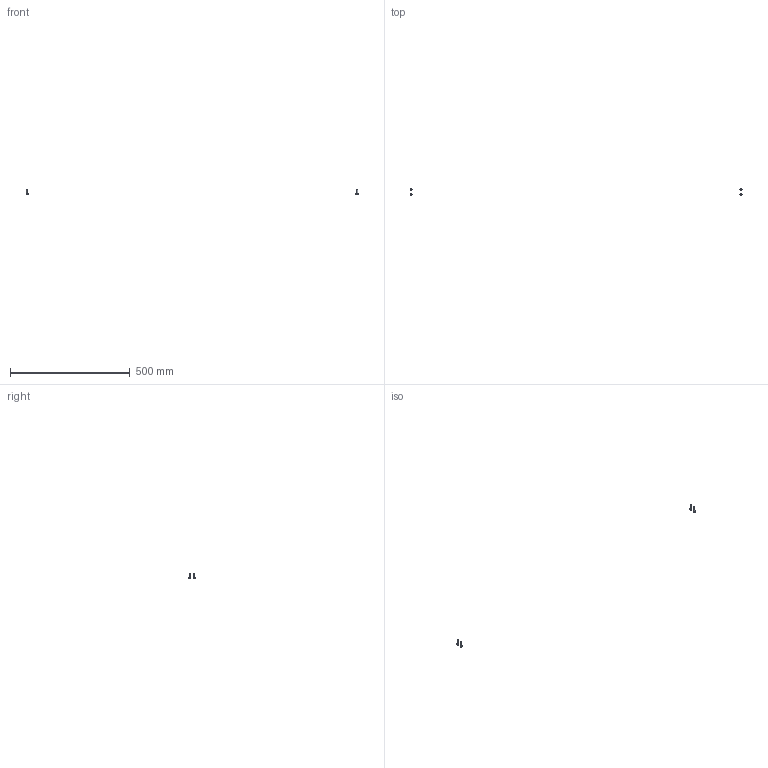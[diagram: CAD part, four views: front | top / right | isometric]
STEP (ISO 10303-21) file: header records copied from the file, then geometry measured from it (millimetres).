
FILE_DESCRIPTION(/* description */ (''),/* implementation_level */ '2;1');
FILE_NAME(/* name */ 'Y-CART~3',/* time_stamp */ '2014-02-14T19:37:15+01:00',/* author */ (''),/* organization */ (''),/* preprocessor_version */ 'ST-DEVELOPER v14',/* originating_system */ '',/* authorisation */ '');
FILE_SCHEMA (('AUTOMOTIVE_DESIGN'));
Length unit declared in the file: millimetre
Products named in the file (2): Document; screw DIN912-like, M5x20
Assembly tree (2 placements, depth 2):
  Document
    screw DIN912-like, M5x20  x2
Bounding box: 1386.46 x 28.5 x 25 mm (x, y, z)
Volume: 2546.5 mm3; surface area: 2334.9 mm2
Topology: 4 solids, 4 shells, 100 faces, 224 edges, 132 vertices
Faces by surface type: plane 60, bspline 40
Entity records: 4125 total; most frequent: CARTESIAN_POINT 1889, B_SPLINE_CURVE_WITH_KNOTS 378, ORIENTED_EDGE 324, PCURVE 324, DEFINITIONAL_REPRESENTATION 324, SURFACE_CURVE 162, EDGE_CURVE 162, VERTEX_POINT 99
